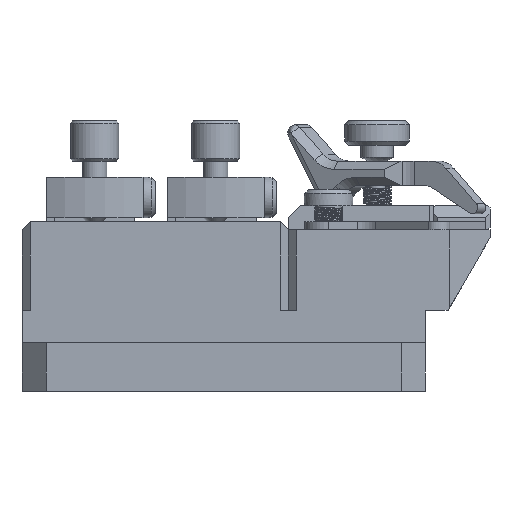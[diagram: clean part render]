
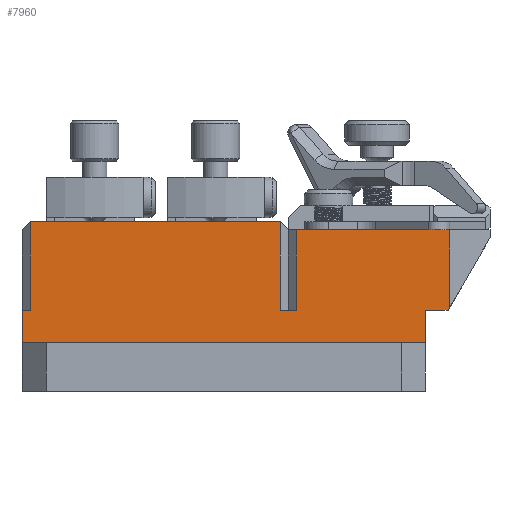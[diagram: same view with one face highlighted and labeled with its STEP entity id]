
A CAD part, front view. The second image highlights one B-rep face of the part: STEP entity #7960.
In plain terms, the highlighted planar face has unit normal (0, -1, 0).
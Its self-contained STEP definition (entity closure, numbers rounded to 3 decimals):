
#577 = CARTESIAN_POINT ( 'NONE',  ( -25., -12.5, 5. ) ) ;
#702 = LINE ( 'NONE', #15735, #3841 ) ;
#843 = EDGE_CURVE ( 'NONE', #8987, #15263, #16943, .T. ) ;
#925 = VECTOR ( 'NONE', #2689, 1000. ) ;
#1260 = CARTESIAN_POINT ( 'NONE',  ( -30.3, -12.5, 17.5 ) ) ;
#1318 = CARTESIAN_POINT ( 'NONE',  ( 25., -12.5, 1. ) ) ;
#1436 = DIRECTION ( 'NONE',  ( 0., -1., 0. ) ) ;
#1523 = ORIENTED_EDGE ( 'NONE', *, *, #16780, .F. ) ;
#1700 = CARTESIAN_POINT ( 'NONE',  ( 28., -12.5, 15. ) ) ;
#1713 = ORIENTED_EDGE ( 'NONE', *, *, #2026, .T. ) ;
#1764 = LINE ( 'NONE', #6239, #10287 ) ;
#1796 = CARTESIAN_POINT ( 'NONE',  ( 25., -12.5, 5. ) ) ;
#1908 = AXIS2_PLACEMENT_3D ( 'NONE', #1260, #1436, #16169 ) ;
#2026 = EDGE_CURVE ( 'NONE', #7340, #4856, #12217, .T. ) ;
#2028 = VERTEX_POINT ( 'NONE', #8558 ) ;
#2055 = DIRECTION ( 'NONE',  ( -1., 0., 0. ) ) ;
#2689 = DIRECTION ( 'NONE',  ( 0., 0., 1. ) ) ;
#2727 = DIRECTION ( 'NONE',  ( 0., 0., -1. ) ) ;
#3095 = CARTESIAN_POINT ( 'NONE',  ( 7., -12.5, 5. ) ) ;
#3247 = EDGE_CURVE ( 'NONE', #2028, #13069, #13257, .T. ) ;
#3509 = ORIENTED_EDGE ( 'NONE', *, *, #11380, .T. ) ;
#3659 = LINE ( 'NONE', #11928, #11993 ) ;
#3841 = VECTOR ( 'NONE', #17152, 1000. ) ;
#4120 = CARTESIAN_POINT ( 'NONE',  ( 25., -12.5, 1. ) ) ;
#4264 = ORIENTED_EDGE ( 'NONE', *, *, #15151, .F. ) ;
#4275 = VECTOR ( 'NONE', #14695, 1000. ) ;
#4383 = EDGE_CURVE ( 'NONE', #9885, #7340, #16190, .T. ) ;
#4454 = LINE ( 'NONE', #12065, #925 ) ;
#4475 = LINE ( 'NONE', #15949, #6457 ) ;
#4580 = ORIENTED_EDGE ( 'NONE', *, *, #843, .T. ) ;
#4856 = VERTEX_POINT ( 'NONE', #6503 ) ;
#4932 = LINE ( 'NONE', #5682, #11181 ) ;
#5060 = CARTESIAN_POINT ( 'NONE',  ( 27.804, -12.5, 5. ) ) ;
#5061 = ORIENTED_EDGE ( 'NONE', *, *, #3247, .T. ) ;
#5682 = CARTESIAN_POINT ( 'NONE',  ( 9., -12.5, 15. ) ) ;
#6239 = CARTESIAN_POINT ( 'NONE',  ( 28., -12.5, 5.34 ) ) ;
#6457 = VECTOR ( 'NONE', #6700, 1000. ) ;
#6503 = CARTESIAN_POINT ( 'NONE',  ( -24., -12.5, 16. ) ) ;
#6638 = EDGE_CURVE ( 'NONE', #15263, #10738, #3659, .T. ) ;
#6700 = DIRECTION ( 'NONE',  ( 1., 0., 0. ) ) ;
#6768 = EDGE_LOOP ( 'NONE', ( #8548, #1523, #14200, #1713, #3509, #4264, #4580, #11030, #16217, #8600, #12580, #15529, #5061 ) ) ;
#7051 = DIRECTION ( 'NONE',  ( -1., 0., 0. ) ) ;
#7340 = VERTEX_POINT ( 'NONE', #16358 ) ;
#7394 = CARTESIAN_POINT ( 'NONE',  ( 9., -12.5, 15. ) ) ;
#7960 = ADVANCED_FACE ( 'NONE', ( #17360 ), #9252, .T. ) ;
#8375 = CARTESIAN_POINT ( 'NONE',  ( -25., -12.5, 1. ) ) ;
#8548 = ORIENTED_EDGE ( 'NONE', *, *, #10932, .T. ) ;
#8558 = CARTESIAN_POINT ( 'NONE',  ( 28., -12.5, 15. ) ) ;
#8600 = ORIENTED_EDGE ( 'NONE', *, *, #11799, .F. ) ;
#8729 = CARTESIAN_POINT ( 'NONE',  ( 7., -12.5, 16. ) ) ;
#8987 = VERTEX_POINT ( 'NONE', #577 ) ;
#9222 = CARTESIAN_POINT ( 'NONE',  ( -24., -12.5, 16. ) ) ;
#9252 = PLANE ( 'NONE',  #1908 ) ;
#9292 = DIRECTION ( 'NONE',  ( 0., 0., -1. ) ) ;
#9885 = VERTEX_POINT ( 'NONE', #3095 ) ;
#9990 = VECTOR ( 'NONE', #2727, 1000. ) ;
#10287 = VECTOR ( 'NONE', #12691, 1000. ) ;
#10628 = CARTESIAN_POINT ( 'NONE',  ( -24., -12.5, 5. ) ) ;
#10724 = VERTEX_POINT ( 'NONE', #11736 ) ;
#10738 = VERTEX_POINT ( 'NONE', #1318 ) ;
#10932 = EDGE_CURVE ( 'NONE', #13069, #11963, #4932, .T. ) ;
#11030 = ORIENTED_EDGE ( 'NONE', *, *, #6638, .T. ) ;
#11181 = VECTOR ( 'NONE', #12358, 1000. ) ;
#11316 = VECTOR ( 'NONE', #13821, 1000. ) ;
#11380 = EDGE_CURVE ( 'NONE', #4856, #16364, #15823, .T. ) ;
#11736 = CARTESIAN_POINT ( 'NONE',  ( 28., -12.5, 5.34 ) ) ;
#11799 = EDGE_CURVE ( 'NONE', #13019, #13196, #14535, .T. ) ;
#11818 = DIRECTION ( 'NONE',  ( 1., 0., 0. ) ) ;
#11928 = CARTESIAN_POINT ( 'NONE',  ( -25., -12.5, 1. ) ) ;
#11963 = VERTEX_POINT ( 'NONE', #12309 ) ;
#11993 = VECTOR ( 'NONE', #11818, 1000. ) ;
#12046 = CARTESIAN_POINT ( 'NONE',  ( -25., -12.5, 5. ) ) ;
#12065 = CARTESIAN_POINT ( 'NONE',  ( 28., -12.5, 5.34 ) ) ;
#12217 = LINE ( 'NONE', #8729, #13942 ) ;
#12309 = CARTESIAN_POINT ( 'NONE',  ( 9., -12.5, 5. ) ) ;
#12317 = CARTESIAN_POINT ( 'NONE',  ( 7., -12.5, 5. ) ) ;
#12358 = DIRECTION ( 'NONE',  ( 0., 0., -1. ) ) ;
#12409 = VECTOR ( 'NONE', #13234, 1000. ) ;
#12580 = ORIENTED_EDGE ( 'NONE', *, *, #14924, .F. ) ;
#12691 = DIRECTION ( 'NONE',  ( -0.5, 0., -0.866 ) ) ;
#13019 = VERTEX_POINT ( 'NONE', #5060 ) ;
#13069 = VERTEX_POINT ( 'NONE', #7394 ) ;
#13196 = VERTEX_POINT ( 'NONE', #1796 ) ;
#13234 = DIRECTION ( 'NONE',  ( 0., 0., 1. ) ) ;
#13257 = LINE ( 'NONE', #1700, #14527 ) ;
#13821 = DIRECTION ( 'NONE',  ( 0., 0., 1. ) ) ;
#13942 = VECTOR ( 'NONE', #2055, 1000. ) ;
#14200 = ORIENTED_EDGE ( 'NONE', *, *, #4383, .T. ) ;
#14527 = VECTOR ( 'NONE', #7051, 1000. ) ;
#14535 = LINE ( 'NONE', #16167, #4275 ) ;
#14695 = DIRECTION ( 'NONE',  ( -1., 0., 0. ) ) ;
#14924 = EDGE_CURVE ( 'NONE', #10724, #13019, #1764, .T. ) ;
#15151 = EDGE_CURVE ( 'NONE', #8987, #16364, #4475, .T. ) ;
#15231 = EDGE_CURVE ( 'NONE', #10738, #13196, #16497, .T. ) ;
#15263 = VERTEX_POINT ( 'NONE', #8375 ) ;
#15529 = ORIENTED_EDGE ( 'NONE', *, *, #16389, .T. ) ;
#15735 = CARTESIAN_POINT ( 'NONE',  ( 7., -12.5, 5. ) ) ;
#15823 = LINE ( 'NONE', #9222, #16029 ) ;
#15949 = CARTESIAN_POINT ( 'NONE',  ( -25., -12.5, 5. ) ) ;
#16029 = VECTOR ( 'NONE', #9292, 1000. ) ;
#16167 = CARTESIAN_POINT ( 'NONE',  ( 27.804, -12.5, 5. ) ) ;
#16169 = DIRECTION ( 'NONE',  ( 0., 0., -1. ) ) ;
#16190 = LINE ( 'NONE', #12317, #11316 ) ;
#16217 = ORIENTED_EDGE ( 'NONE', *, *, #15231, .T. ) ;
#16358 = CARTESIAN_POINT ( 'NONE',  ( 7., -12.5, 16. ) ) ;
#16364 = VERTEX_POINT ( 'NONE', #10628 ) ;
#16389 = EDGE_CURVE ( 'NONE', #10724, #2028, #4454, .T. ) ;
#16497 = LINE ( 'NONE', #4120, #12409 ) ;
#16780 = EDGE_CURVE ( 'NONE', #9885, #11963, #702, .T. ) ;
#16943 = LINE ( 'NONE', #12046, #9990 ) ;
#17152 = DIRECTION ( 'NONE',  ( 1., 0., 0. ) ) ;
#17360 = FACE_OUTER_BOUND ( 'NONE', #6768, .T. ) ;
